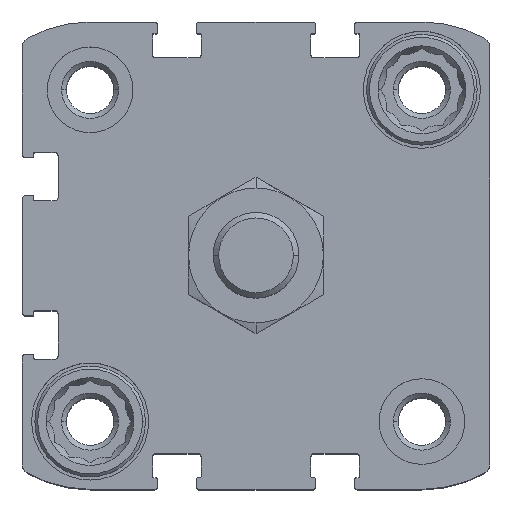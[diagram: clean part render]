
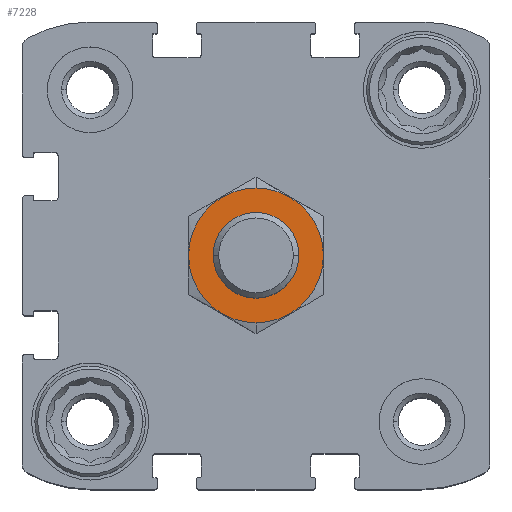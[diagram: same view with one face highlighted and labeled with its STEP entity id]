
A CAD part, top view. The second image highlights one B-rep face of the part: STEP entity #7228.
In plain terms, the highlighted planar face has unit normal (0, 0, 1).
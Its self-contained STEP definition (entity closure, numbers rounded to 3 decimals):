
#578 = AXIS2_PLACEMENT_3D ( 'NONE', #14684, #4402, #9721 ) ;
#1228 = CARTESIAN_POINT ( 'NONE',  ( 0., -9.45, 19.5 ) ) ;
#1754 = EDGE_CURVE ( 'NONE', #5257, #5760, #8077, .T. ) ;
#1894 = ORIENTED_EDGE ( 'NONE', *, *, #3737, .F. ) ;
#2315 = AXIS2_PLACEMENT_3D ( 'NONE', #12488, #4573, #9799 ) ;
#2467 = DIRECTION ( 'NONE',  ( 0., 1., 0. ) ) ;
#2539 = AXIS2_PLACEMENT_3D ( 'NONE', #10472, #13092, #2467 ) ;
#2802 = DIRECTION ( 'NONE',  ( 0., 1., 0. ) ) ;
#2845 = CIRCLE ( 'NONE', #2315, 9.45 ) ;
#3178 = EDGE_CURVE ( 'NONE', #5760, #5257, #15294, .T. ) ;
#3350 = EDGE_LOOP ( 'NONE', ( #6059, #7399 ) ) ;
#3642 = ORIENTED_EDGE ( 'NONE', *, *, #9659, .F. ) ;
#3737 = EDGE_CURVE ( 'NONE', #4009, #10165, #12668, .T. ) ;
#4009 = VERTEX_POINT ( 'NONE', #7679 ) ;
#4363 = CARTESIAN_POINT ( 'NONE',  ( 0., 0., 19.5 ) ) ;
#4402 = DIRECTION ( 'NONE',  ( 0., 0., -1. ) ) ;
#4486 = CARTESIAN_POINT ( 'NONE',  ( 0., 6., 19.5 ) ) ;
#4562 = EDGE_LOOP ( 'NONE', ( #1894, #3642 ) ) ;
#4573 = DIRECTION ( 'NONE',  ( 0., 0., -1. ) ) ;
#4729 = AXIS2_PLACEMENT_3D ( 'NONE', #17195, #5277, #16949 ) ;
#5257 = VERTEX_POINT ( 'NONE', #9074 ) ;
#5277 = DIRECTION ( 'NONE',  ( 0., 0., -1. ) ) ;
#5760 = VERTEX_POINT ( 'NONE', #4486 ) ;
#6059 = ORIENTED_EDGE ( 'NONE', *, *, #1754, .T. ) ;
#6557 = AXIS2_PLACEMENT_3D ( 'NONE', #4363, #9678, #2802 ) ;
#7228 = ADVANCED_FACE ( 'NONE', ( #14398, #15440 ), #14311, .F. ) ;
#7399 = ORIENTED_EDGE ( 'NONE', *, *, #3178, .T. ) ;
#7679 = CARTESIAN_POINT ( 'NONE',  ( 0., 9.45, 19.5 ) ) ;
#8077 = CIRCLE ( 'NONE', #578, 6. ) ;
#9074 = CARTESIAN_POINT ( 'NONE',  ( 0., -6., 19.5 ) ) ;
#9659 = EDGE_CURVE ( 'NONE', #10165, #4009, #2845, .T. ) ;
#9678 = DIRECTION ( 'NONE',  ( 0., 0., -1. ) ) ;
#9721 = DIRECTION ( 'NONE',  ( 0., 1., 0. ) ) ;
#9799 = DIRECTION ( 'NONE',  ( 0., 1., 0. ) ) ;
#10165 = VERTEX_POINT ( 'NONE', #1228 ) ;
#10472 = CARTESIAN_POINT ( 'NONE',  ( 0., 0., 19.5 ) ) ;
#12488 = CARTESIAN_POINT ( 'NONE',  ( 0., 0., 19.5 ) ) ;
#12668 = CIRCLE ( 'NONE', #6557, 9.45 ) ;
#13092 = DIRECTION ( 'NONE',  ( 0., 0., -1. ) ) ;
#14311 = PLANE ( 'NONE',  #2539 ) ;
#14398 = FACE_OUTER_BOUND ( 'NONE', #4562, .T. ) ;
#14684 = CARTESIAN_POINT ( 'NONE',  ( 0., 0., 19.5 ) ) ;
#15294 = CIRCLE ( 'NONE', #4729, 6. ) ;
#15440 = FACE_BOUND ( 'NONE', #3350, .T. ) ;
#16949 = DIRECTION ( 'NONE',  ( 0., 1., 0. ) ) ;
#17195 = CARTESIAN_POINT ( 'NONE',  ( 0., 0., 19.5 ) ) ;
